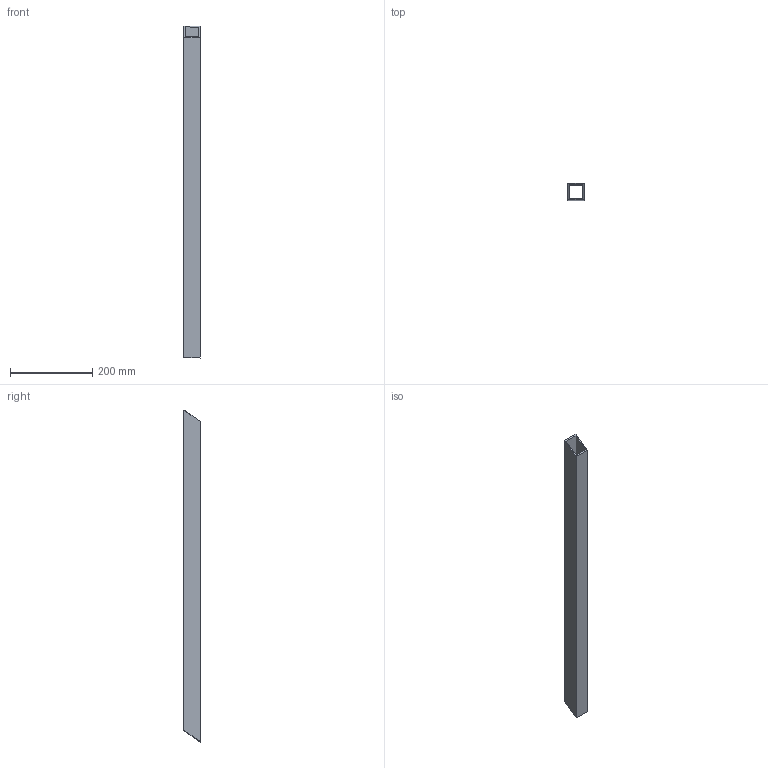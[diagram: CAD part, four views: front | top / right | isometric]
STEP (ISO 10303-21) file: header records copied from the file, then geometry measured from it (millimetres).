
FILE_DESCRIPTION(('Open CASCADE Model'),'2;1');
FILE_NAME('Open CASCADE Shape Model','2026-10-15T15:10:04',('Author'),( 'Open CASCADE'),'Open CASCADE STEP processor 8.0','Open CASCADE 8.0' ,'Unknown');
FILE_SCHEMA(('AUTOMOTIVE_DESIGN { 1 0 10303 214 1 1 1 1 }'));
Length unit declared in the file: millimetre
Products named in the file (1): SHS40x40x3_L778272_CUTeaa0b6_P05 30
Bounding box: 40 x 40 x 807.24 mm (x, y, z)
Volume: 345552.9 mm3; surface area: 231452.7 mm2
Topology: 1 solids, 1 shells, 10 faces, 24 edges, 16 vertices
Faces by surface type: plane 10
Entity records: 582 total; most frequent: CARTESIAN_POINT 131, DIRECTION 62, ORIENTED_EDGE 48, PCURVE 48, DEFINITIONAL_REPRESENTATION 48, LINE 40, VECTOR 40, B_SPLINE_CURVE_WITH_KNOTS 32
